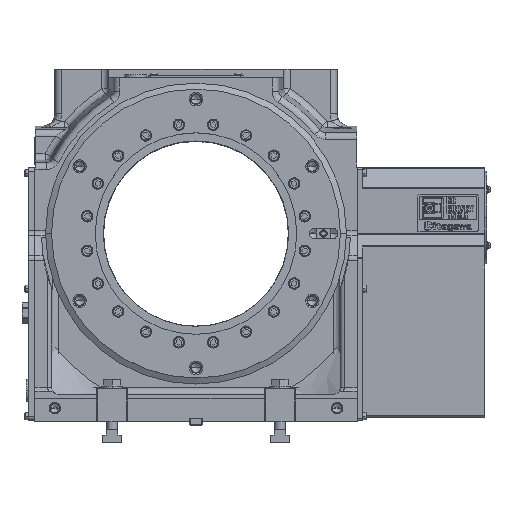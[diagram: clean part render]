
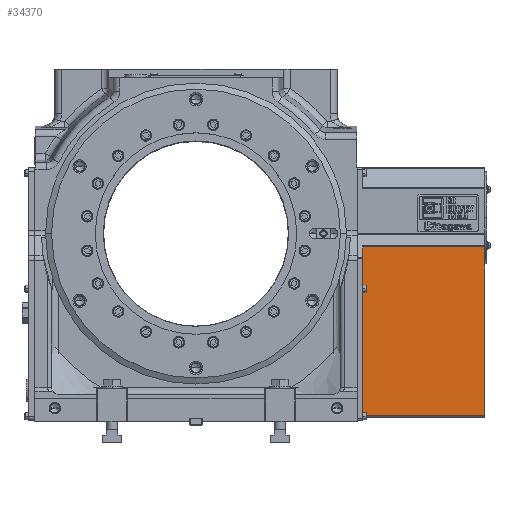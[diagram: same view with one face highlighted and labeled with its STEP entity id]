
A CAD part, top view. The second image highlights one B-rep face of the part: STEP entity #34370.
In plain terms, the highlighted planar face has unit normal (0, 0, 1).
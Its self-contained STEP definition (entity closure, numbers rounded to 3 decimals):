
#3538 = ORIENTED_EDGE ( 'NONE', *, *, #110059, .F. ) ;
#4587 = DIRECTION ( 'NONE',  ( 0., -1., 0. ) ) ;
#5450 = PLANE ( 'NONE',  #25826 ) ;
#10083 = DIRECTION ( 'NONE',  ( 1., 0., 0. ) ) ;
#10972 = EDGE_CURVE ( 'NONE', #68043, #69391, #107182, .T. ) ;
#25826 = AXIS2_PLACEMENT_3D ( 'NONE', #112856, #55378, #122554 ) ;
#28487 = CARTESIAN_POINT ( 'NONE',  ( 190., 258.172, -17. ) ) ;
#32366 = VECTOR ( 'NONE', #95687, 1000. ) ;
#34370 = ADVANCED_FACE ( 'NONE', ( #101526 ), #5450, .F. ) ;
#34504 = EDGE_CURVE ( 'NONE', #93271, #37518, #105978, .T. ) ;
#36101 = CARTESIAN_POINT ( 'NONE',  ( 190., 7., -17. ) ) ;
#37518 = VERTEX_POINT ( 'NONE', #62446 ) ;
#38192 = LINE ( 'NONE', #118441, #111765 ) ;
#38531 = EDGE_CURVE ( 'NONE', #37518, #68043, #38192, .T. ) ;
#44521 = ORIENTED_EDGE ( 'NONE', *, *, #38531, .T. ) ;
#48677 = CARTESIAN_POINT ( 'NONE',  ( 190., 7., -17. ) ) ;
#50071 = EDGE_LOOP ( 'NONE', ( #44521, #102125, #3538, #51356 ) ) ;
#50407 = LINE ( 'NONE', #80932, #101481 ) ;
#51356 = ORIENTED_EDGE ( 'NONE', *, *, #34504, .T. ) ;
#55378 = DIRECTION ( 'NONE',  ( 0., 0., -1. ) ) ;
#56085 = VECTOR ( 'NONE', #10083, 1000. ) ;
#60937 = DIRECTION ( 'NONE',  ( 0., -1., 0. ) ) ;
#62446 = CARTESIAN_POINT ( 'NONE',  ( 8., 258.172, -17. ) ) ;
#64304 = CARTESIAN_POINT ( 'NONE',  ( 8., 7., -17. ) ) ;
#68043 = VERTEX_POINT ( 'NONE', #64304 ) ;
#69391 = VERTEX_POINT ( 'NONE', #36101 ) ;
#80932 = CARTESIAN_POINT ( 'NONE',  ( 190., 5., -17. ) ) ;
#93271 = VERTEX_POINT ( 'NONE', #101693 ) ;
#95687 = DIRECTION ( 'NONE',  ( -1., 0., 0. ) ) ;
#101481 = VECTOR ( 'NONE', #4587, 1000. ) ;
#101526 = FACE_OUTER_BOUND ( 'NONE', #50071, .T. ) ;
#101693 = CARTESIAN_POINT ( 'NONE',  ( 190., 258.172, -17. ) ) ;
#102125 = ORIENTED_EDGE ( 'NONE', *, *, #10972, .T. ) ;
#105978 = LINE ( 'NONE', #28487, #32366 ) ;
#107182 = LINE ( 'NONE', #48677, #56085 ) ;
#110059 = EDGE_CURVE ( 'NONE', #93271, #69391, #50407, .T. ) ;
#111765 = VECTOR ( 'NONE', #60937, 1000. ) ;
#112856 = CARTESIAN_POINT ( 'NONE',  ( 190., 5., -17. ) ) ;
#118441 = CARTESIAN_POINT ( 'NONE',  ( 8., 5., -17. ) ) ;
#122554 = DIRECTION ( 'NONE',  ( 0., 1., 0. ) ) ;
